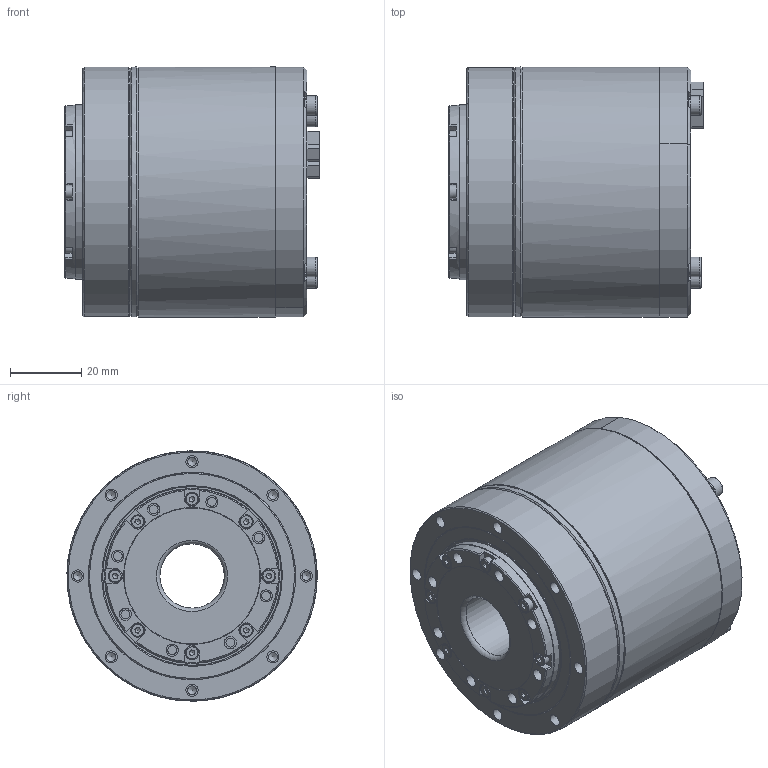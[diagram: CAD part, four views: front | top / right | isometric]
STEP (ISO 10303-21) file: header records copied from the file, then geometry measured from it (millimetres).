
FILE_DESCRIPTION (( 'STEP AP203' ), '1' );
FILE_NAME ('eRob70F｡ﾁ｡ﾁI-B-XX-18CX_V3_MC2A.AX.XX.STEP', '2025-04-03T01:31:39', ( 'Windows User' ), ( 'P R C' ), 'SwSTEP 2.0', 'SolidWorks 2021', '' );
FILE_SCHEMA (( 'CONFIG_CONTROL_DESIGN' ));
Length unit declared in the file: millimetre
Products named in the file (1): eRob70F××I-B-XX-18CX_V3_MC2A.AX.XX
Bounding box: 71.1 x 69.96 x 70 mm (x, y, z)
Volume: 228113 mm3; surface area: 33550.2 mm2
Topology: 1 solids, 1 shells, 1481 faces, 3997 edges, 2619 vertices
Faces by surface type: plane 1112, cylinder 163, bspline 136, cone 51, torus 19
Full cylindrical faces by diameter (mm): 1.5 x4, 1.55 x3, 2.5 x20, 3 x4, 3.4 x16, 3.8 x8, 5.5 x4, 18 x1, 48.6 x1, 49 x1, 50 x1, 58 x1, 70 x3
Entity records: 51899 total; most frequent: CARTESIAN_POINT 16099, ORIENTED_EDGE 7596, DIRECTION 6656, EDGE_CURVE 3798, VECTOR 3016, LINE 3016, VERTEX_POINT 2543, AXIS2_PLACEMENT_3D 1820
